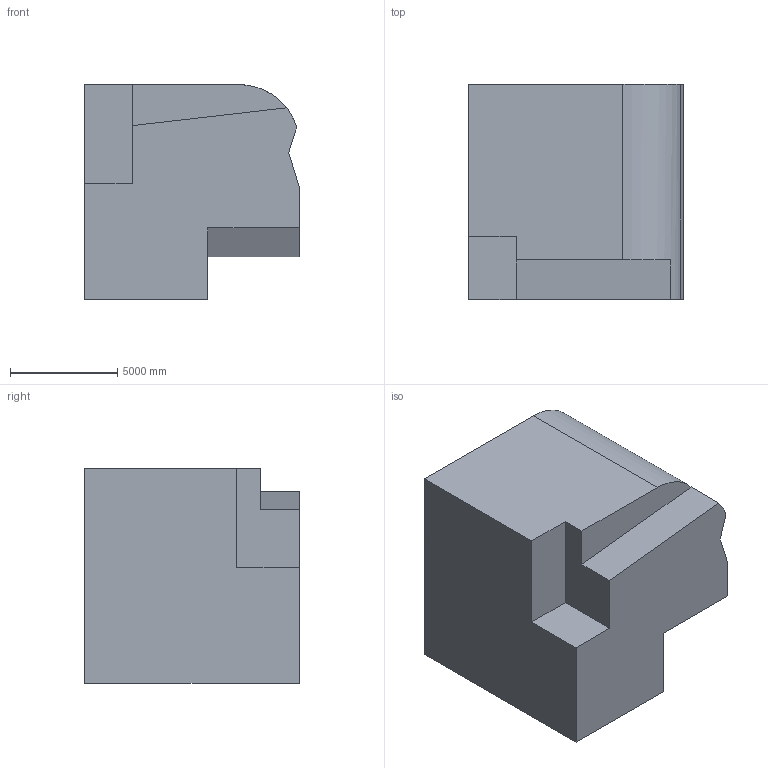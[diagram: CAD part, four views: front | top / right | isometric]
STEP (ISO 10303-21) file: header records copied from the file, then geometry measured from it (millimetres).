
FILE_DESCRIPTION (( 'STEP AP203' ), '1' );
FILE_NAME ('290.STEP', '2022-09-07T12:39:10', ( 'user' ), ( '' ), 'SwSTEP 2.0', 'SolidWorks 2021', '' );
FILE_SCHEMA (( 'CONFIG_CONTROL_DESIGN' ));
Length unit declared in the file: centimetre
Products named in the file (1): 290
Bounding box: 10000 x 10000 x 10000 mm (x, y, z)
Volume: 814062948792.8 mm3; surface area: 557912226.5 mm2
Topology: 1 solids, 1 shells, 16 faces, 42 edges, 28 vertices
Faces by surface type: plane 15, cylinder 1
Entity records: 566 total; most frequent: CARTESIAN_POINT 87, ORIENTED_EDGE 84, DIRECTION 79, EDGE_CURVE 42, VECTOR 39, LINE 39, VERTEX_POINT 28, AXIS2_PLACEMENT_3D 20
